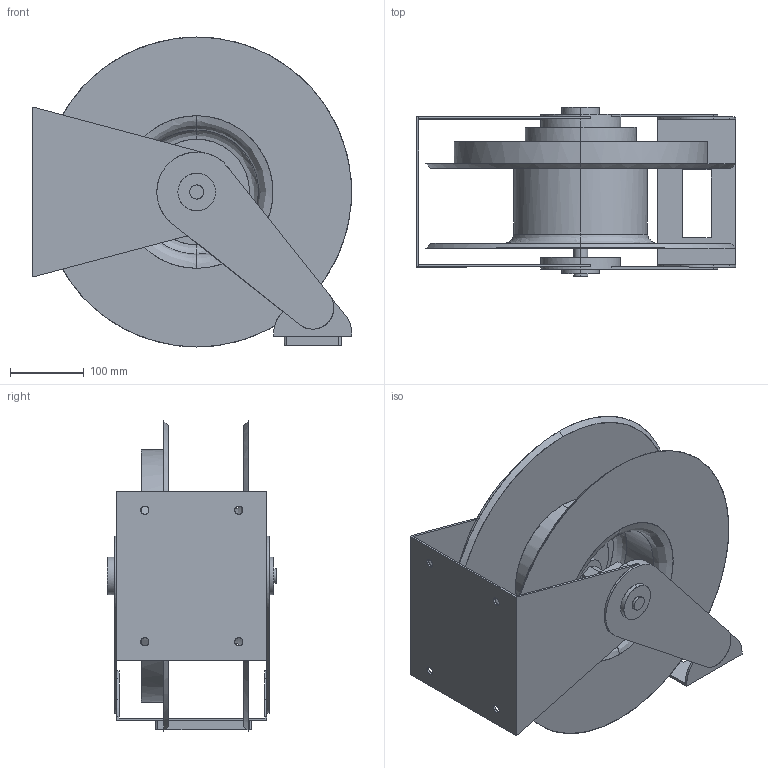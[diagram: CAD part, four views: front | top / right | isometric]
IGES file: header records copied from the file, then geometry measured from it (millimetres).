
Start section: Comment
Global section: file name: DP7000 OXP WIDE.igs; native system:  By UGS Corp.; preprocessor: XPlus GENERIC/IGES 3.0; author: Author; organization: Title; date: 20120808.160222; units: millimetre
Bounding box: 431.8 x 228.6 x 419.1 mm (x, y, z)
Surface area: 1036773.7 mm2 (no closed solid volume)
Topology: 0 solids, 0 shells, 148 faces, 722 edges, 722 vertices
Faces by surface type: bspline 148
